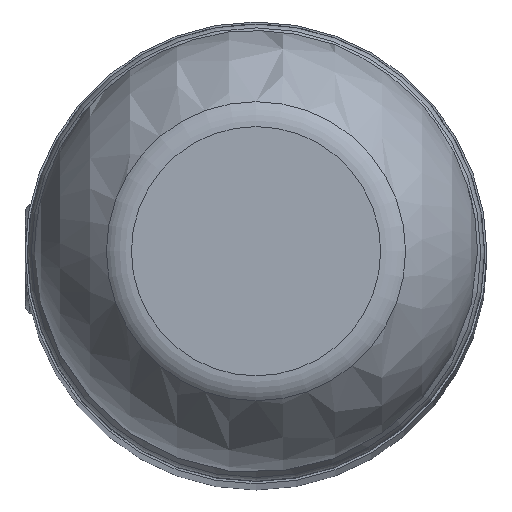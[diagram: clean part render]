
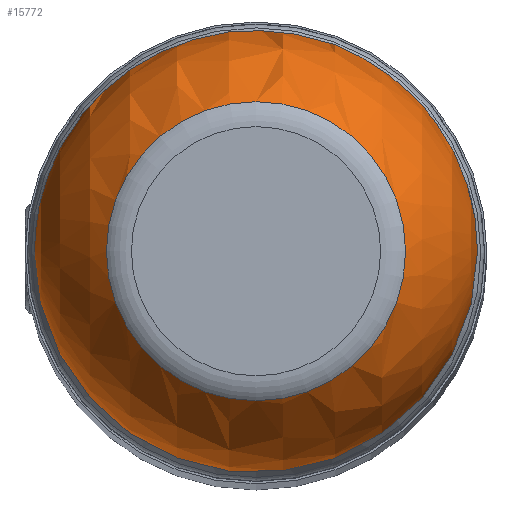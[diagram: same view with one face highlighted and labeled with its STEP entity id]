
A CAD part, top view. The second image highlights one B-rep face of the part: STEP entity #15772.
In plain terms, the highlighted spherical face has radius 12.186 mm.
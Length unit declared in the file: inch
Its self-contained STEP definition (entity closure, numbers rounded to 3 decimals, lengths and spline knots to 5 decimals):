
#33=SPHERICAL_SURFACE('',#16676,0.47975);
#598=FACE_BOUND('',#3302,.T.);
#599=FACE_BOUND('',#3303,.T.);
#3302=EDGE_LOOP('',(#14270));
#3303=EDGE_LOOP('',(#14271));
#3770=CIRCLE('',#16674,0.32389);
#3771=CIRCLE('',#16677,0.26399);
#7524=VERTEX_POINT('',#36581);
#7525=VERTEX_POINT('',#36585);
#9800=EDGE_CURVE('',#7524,#7524,#3770,.T.);
#9801=EDGE_CURVE('',#7525,#7525,#3771,.T.);
#14270=ORIENTED_EDGE('',*,*,#9801,.F.);
#14271=ORIENTED_EDGE('',*,*,#9800,.F.);
#15772=ADVANCED_FACE('',(#598,#599),#33,.T.);
#16674=AXIS2_PLACEMENT_3D('',#36582,#19371,#19372);
#16676=AXIS2_PLACEMENT_3D('',#36584,#19375,#19376);
#16677=AXIS2_PLACEMENT_3D('',#36586,#19377,#19378);
#19371=DIRECTION('center_axis',(1.,0.,0.));
#19372=DIRECTION('ref_axis',(0.,0.,-1.));
#19375=DIRECTION('center_axis',(0.,0.,1.));
#19376=DIRECTION('ref_axis',(1.,0.,0.));
#19377=DIRECTION('center_axis',(-1.,0.,0.));
#19378=DIRECTION('ref_axis',(0.,-1.,0.));
#36581=CARTESIAN_POINT('',(-0.06494,1.07816,0.32389));
#36582=CARTESIAN_POINT('Origin',(-0.06494,1.07816,0.));
#36584=CARTESIAN_POINT('Origin',(-0.41886,1.07816,0.));
#36585=CARTESIAN_POINT('',(-0.81944,1.34215,0.));
#36586=CARTESIAN_POINT('Origin',(-0.81944,1.07816,0.));
